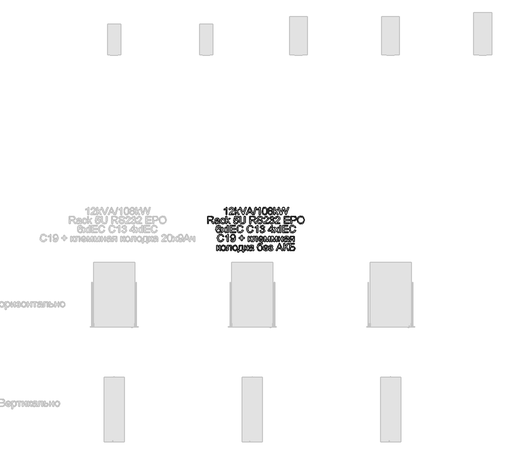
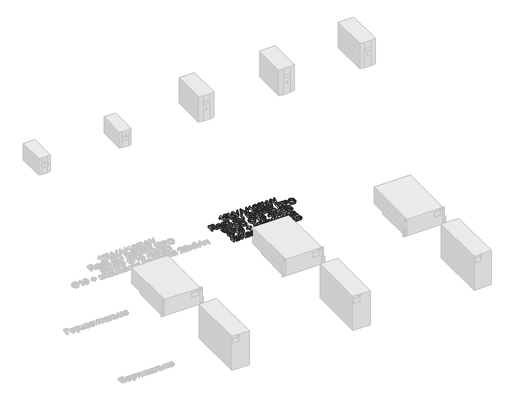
# One storey, part 54 of 74: 1 proxy.
"""IFC4 building model written with IfcOpenShell, lengths in millimetres."""

from ifc_helpers import new_model, si_unit, origin, origin_with_axes, place, context, project, spatial, polyline, outline, extrude, element, save

model = new_model("IFC4")

# Units and contexts
model_context = context("Model", 3, world=origin())
ifc_project = project(units=[si_unit("LENGTHUNIT", "METRE", prefix="MILLI")], contexts=[model_context])

# Site, building, storey
site = spatial("IfcSite", under=ifc_project)
building = spatial("IfcBuilding", under=site)
storey = spatial("IfcBuildingStorey", under=building, Name="Этаж 01", Elevation=0.0)

# Proxy
placement = place(None, origin())
element("IfcBuildingElementProxy", 1, Name="80 мм Arial", ObjectType="80 мм Arial", at=placement, inside=storey, context=model_context, shape_type="SweptSolid", body=[
    extrude(outline(polyline([(2576.7842514, -3326.633326), (2566.7386204, -3326.633326), (2566.7386204, -3264.0050951), (2557.2227394, -3270.783934), (2546.6473583, -3275.8558004), (2546.6473583, -3266.3595399), (2561.3724483, -3256.9613812), (2570.3095283, -3246.2682778), (2576.7842514, -3246.2682778), (2576.7842514, -3326.633326)])), origin_with_axes(), (0.0, 0.0, 1.0), 20.0),
    extrude(outline(polyline([(2652.126484, -3316.5876949), (2652.126484, -3326.633326), (2599.3869212, -3326.633326), (2600.4660417, -3319.7073343), (2606.5679777, -3309.0436615), (2619.1446369, -3297.3989701), (2636.4890467, -3280.6627918), (2640.8251491, -3269.2829755), (2636.7343013, -3260.0712103), (2626.0510082, -3256.3139089), (2614.9164465, -3259.9829186), (2610.6882561, -3270.1266515), (2600.6426251, -3268.8709476), (2603.0780039, -3259.1539579), (2608.3436215, -3252.0562879), (2616.1647927, -3247.7152804), (2626.2668323, -3246.2682778), (2636.4424483, -3247.8771484), (2644.2489042, -3252.7037602), (2649.2153111, -3259.9142473), (2650.8707801, -3268.6747439), (2649.0853262, -3278.200435), (2643.1501633, -3288.0498623), (2628.7586197, -3301.813554), (2617.2022199, -3311.4765878), (2612.6699137, -3316.5876949), (2652.126484, -3316.5876949)])), origin_with_axes(), (0.0, 0.0, 1.0), 20.0),
    extrude(outline(polyline([(2664.6835228, -3326.633326), (2664.6835228, -3246.2682778), (2674.7291538, -3246.2682778), (2674.7291538, -3289.452719), (2697.2533421, -3267.6152437), (2711.1445662, -3267.6152437), (2688.3456927, -3289.7274042), (2712.4002701, -3326.633326), (2700.667287, -3326.633326), (2681.1450158, -3296.712257), (2674.7291538, -3302.9319153), (2674.7291538, -3326.633326), (2664.6835228, -3326.633326)])), origin_with_axes(), (0.0, 0.0, 1.0), 20.0),
    extrude(outline(polyline([(2787.1735119, -3326.633326), (2819.2528219, -3246.2682778), (2827.8073045, -3246.2682778), (2859.8866145, -3326.633326), (2849.2719927, -3326.633326), (2840.0700377, -3301.5192484), (2806.9704683, -3301.5192484), (2797.7881337, -3326.633326), (2787.1735119, -3326.633326)]), holes=[polyline([(2810.6590985, -3291.4736174), (2836.4010279, -3291.4736174), (2829.1611103, -3271.7159017), (2823.5300632, -3256.3139089), (2818.5268681, -3269.9893089), (2810.6590985, -3291.4736174)])]), origin_with_axes(), (0.0, 0.0, 1.0), 20.0),
    extrude(outline(polyline([(2746.1865525, -3326.633326), (2714.2053444, -3246.2682778), (2724.9573089, -3246.2682778), (2746.3631359, -3304.1679988), (2750.6992383, -3317.2155469), (2754.9764797, -3304.1679988), (2776.4411678, -3246.2682778), (2787.1931323, -3246.2682778), (2756.5657299, -3326.633326), (2746.1865525, -3326.633326)])), origin_with_axes(), (0.0, 0.0, 1.0), 20.0),
    extrude(outline(polyline([(2861.8290314, -3326.633326), (2884.4317012, -3246.2682778), (2893.4963136, -3246.2682778), (2870.8936438, -3326.633326), (2861.8290314, -3326.633326)])), origin_with_axes(), (0.0, 0.0, 1.0), 20.0),
    extrude(outline(polyline([(2935.9155602, -3326.633326), (2925.8699292, -3326.633326), (2925.8699292, -3264.0050951), (2916.3540482, -3270.783934), (2905.7786671, -3275.8558004), (2905.7786671, -3266.3595399), (2920.5037571, -3256.9613812), (2929.4408371, -3246.2682778), (2935.9155602, -3246.2682778), (2935.9155602, -3326.633326)])), origin_with_axes(), (0.0, 0.0, 1.0), 20.0),
    extrude(outline(polyline([(2959.7739338, -3287.0982742), (2962.7268, -3263.9756645), (2971.4971067, -3250.643621), (2986.1437152, -3246.2682778), (2997.8766983, -3248.8581671), (3005.9799124, -3256.323719), (3010.688802, -3268.2136651), (3012.5134967, -3287.0982742), (3009.5900611, -3310.122782), (3000.8491849, -3323.4842561), (2986.1437152, -3327.8890298), (2975.7056768, -3325.9760435), (2967.7790461, -3320.2370843), (2961.7752119, -3306.6450709), (2959.7739338, -3287.0982742)]), holes=[polyline([(2969.8195649, -3287.0786538), (2970.9967872, -3302.8804118), (2974.5284544, -3312.0259582), (2986.1437152, -3317.8433988), (2997.7589761, -3312.0063378), (3001.2906433, -3302.8558863), (3002.4678656, -3287.0786538), (3001.329884, -3271.6325151), (2997.9159391, -3262.4158449), (2992.6674893, -3257.8393929), (2986.025993, -3256.3139089), (2974.6854174, -3261.6898911), (2971.036028, -3271.4804572), (2969.8195649, -3287.0786538)])]), origin_with_axes(), (0.0, 0.0, 1.0), 20.0),
    extrude(outline(polyline([(3035.9402221, -3282.3697643), (3026.7873181, -3276.1304857), (3023.8148316, -3266.418401), (3025.4335123, -3258.5653467), (3030.2895547, -3252.0759083), (3037.8384932, -3247.7201854), (3047.5358626, -3246.2682778), (3057.2920931, -3247.7545211), (3064.9391335, -3252.2132509), (3069.8834675, -3258.8056962), (3071.5315789, -3266.6930862), (3068.5983331, -3276.1599162), (3059.7004939, -3282.3697643), (3070.3837871, -3290.2473441), (3074.0429866, -3303.2458413), (3072.2281021, -3312.8500139), (3066.7834486, -3320.7864548), (3058.3761187, -3326.1133861), (3047.6732052, -3327.8890298), (3036.9702917, -3326.1060284), (3028.5629618, -3320.7570242), (3023.1183083, -3312.7445544), (3021.3034238, -3302.971156), (3025.1097762, -3289.6685431), (3035.9402221, -3282.3697643)]), holes=[polyline([(3033.8604626, -3266.7127066), (3037.4215603, -3274.6000966), (3047.7909275, -3277.6608748), (3057.9542807, -3274.6197169), (3061.4859479, -3267.1639752), (3057.8365585, -3259.4433584), (3047.6732052, -3256.3139089), (3037.4804214, -3259.3746871), (3033.8604626, -3266.7127066)]), polyline([(3031.3490548, -3302.6179893), (3033.0265967, -3310.1816431), (3038.9617596, -3315.8421208), (3047.7516867, -3317.8433988), (3059.7201143, -3313.6348288), (3063.9973556, -3302.9319153), (3059.5827717, -3292.0229879), (3047.4181404, -3287.7065058), (3035.5968656, -3291.9641267), (3031.3490548, -3302.6179893)])]), origin_with_axes(), (0.0, 0.0, 1.0), 20.0),
    extrude(outline(polyline([(3085.3443215, -3326.633326), (3085.3443215, -3246.2682778), (3095.3899525, -3246.2682778), (3095.3899525, -3289.452719), (3117.9141408, -3267.6152437), (3131.805365, -3267.6152437), (3109.0064915, -3289.7274042), (3133.0610688, -3326.633326), (3121.3280857, -3326.633326), (3101.8058145, -3296.712257), (3095.3899525, -3302.9319153), (3095.3899525, -3326.633326), (3085.3443215, -3326.633326)])), origin_with_axes(), (0.0, 0.0, 1.0), 20.0),
    extrude(outline(polyline([(3157.4884333, -3326.633326), (3135.5724766, -3246.2682778), (3145.9320336, -3246.2682778), (3158.6460353, -3299.0863222), (3162.5701099, -3315.3908522), (3166.7688698, -3300.969878), (3182.7006127, -3246.2682778), (3197.6317166, -3246.2682778), (3209.2077368, -3285.9210518), (3217.8210805, -3315.3908522), (3221.6274329, -3299.5572111), (3234.4591569, -3246.2682778), (3244.8187139, -3246.2682778), (3222.8831368, -3326.633326), (3212.1507927, -3326.633326), (3192.8835864, -3264.632947), (3190.1955952, -3255.9803625), (3187.1740578, -3266.3987806), (3169.6138239, -3326.633326), (3157.4884333, -3326.633326)])), origin_with_axes(), (0.0, 0.0, 1.0), 20.0),
    extrude(outline(polyline([(2366.453852, -3424.2131802), (2366.453852, -3343.8481321), (2401.0838105, -3343.8481321), (2417.1627062, -3346.0161833), (2425.9526334, -3353.6877492), (2429.2390459, -3365.8425703), (2423.7943923, -3380.3224057), (2406.9699224, -3387.7977678), (2412.679451, -3392.0946295), (2420.8219058, -3402.4345661), (2434.2226206, -3424.2131802), (2422.5484986, -3424.2131802), (2412.0908398, -3407.5554835), (2404.5369962, -3396.5288338), (2399.2296852, -3391.3196248), (2394.4521244, -3389.4066384), (2388.6248736, -3389.0534717), (2376.499483, -3389.0534717), (2376.499483, -3424.2131802), (2366.453852, -3424.2131802)]), holes=[polyline([(2376.499483, -3379.0078407), (2398.9844306, -3379.0078407), (2410.4525386, -3377.5853636), (2416.9665025, -3373.0334371), (2419.1934148, -3366.2153574), (2414.9456041, -3357.3665692), (2401.5154587, -3353.8937631), (2376.499483, -3353.8937631), (2376.499483, -3379.0078407)])]), origin_with_axes(), (0.0, 0.0, 1.0), 20.0),
    extrude(outline(polyline([(2483.2343126, -3416.678957), (2473.4927973, -3423.4872264), (2462.7310227, -3425.4688841), (2448.1432753, -3420.7011335), (2443.0517885, -3408.5168818), (2444.9745851, -3400.5706307), (2450.0268311, -3394.802241), (2457.0607349, -3391.5060183), (2465.7525602, -3389.9952496), (2483.1754514, -3386.5420639), (2483.2343126, -3384.3053414), (2480.46784, -3376.8888404), (2469.3627088, -3373.9850252), (2459.1993555, -3375.9176319), (2454.3531234, -3382.7749523), (2444.3074924, -3381.5192484), (2448.653405, -3371.7090619), (2457.4040914, -3365.9602926), (2470.6576534, -3363.9393941), (2482.8320949, -3365.7248481), (2489.7090357, -3370.2081033), (2492.7894343, -3377.026183), (2493.2799436, -3385.8161101), (2493.2799436, -3398.3142878), (2493.7900733, -3415.7666096), (2495.7913513, -3424.2131802), (2485.7457203, -3424.2131802), (2483.2343126, -3416.678957)]), holes=[polyline([(2483.2343126, -3396.5876949), (2467.0278844, -3399.6680935), (2458.3851101, -3401.2965845), (2454.4708456, -3403.9453348), (2453.0974195, -3407.8105483), (2456.0895264, -3413.2453917), (2464.8696434, -3415.4232531), (2475.0329966, -3413.0197574), (2481.5862012, -3407.2023168), (2483.1754514, -3399.432649), (2483.2343126, -3396.5876949)])]), origin_with_axes(), (0.0, 0.0, 1.0), 20.0),
    extrude(outline(polyline([(2544.7638025, -3402.8662143), (2554.8094335, -3404.1219182), (2552.0086253, -3413.0565456), (2546.7454602, -3419.8084065), (2530.8137173, -3425.4688841), (2520.1279716, -3423.4945841), (2511.7721452, -3417.571684), (2506.3789952, -3407.9601537), (2504.5812785, -3394.9199632), (2507.6518669, -3378.2328359), (2517.0107848, -3367.510302), (2530.6763747, -3363.9393941), (2545.9508351, -3368.8444874), (2553.5537297, -3382.7749523), (2543.5080987, -3384.0306562), (2538.84826, -3376.5062431), (2530.7548562, -3373.9850252), (2519.1101647, -3378.9489796), (2514.6269095, -3394.645278), (2519.0120629, -3410.4887293), (2530.4801709, -3415.4232531), (2539.9470009, -3412.3428545), (2544.7638025, -3402.8662143)])), origin_with_axes(), (0.0, 0.0, 1.0), 20.0),
    extrude(outline(polyline([(2563.5993607, -3424.2131802), (2563.5993607, -3343.8481321), (2573.6449917, -3343.8481321), (2573.6449917, -3387.0325733), (2596.16918, -3365.195098), (2610.0604041, -3365.195098), (2587.2615306, -3387.3072585), (2611.316108, -3424.2131802), (2599.5831249, -3424.2131802), (2580.0608537, -3394.2921113), (2573.6449917, -3400.5117696), (2573.6449917, -3424.2131802), (2563.5993607, -3424.2131802)])), origin_with_axes(), (0.0, 0.0, 1.0), 20.0),
    extrude(outline(polyline([(2648.9872243, -3402.8662143), (2659.0328553, -3401.6105105), (2664.0949116, -3411.9602573), (2674.5918112, -3415.4232531), (2687.1880907, -3410.6064515), (2691.6811561, -3397.8237784), (2687.4725861, -3385.8945916), (2674.7487742, -3381.5192484), (2665.9294165, -3383.2654616), (2660.2885592, -3387.7977678), (2650.2429282, -3386.5420639), (2659.0328553, -3345.103836), (2697.9596755, -3345.103836), (2697.9596755, -3355.149467), (2667.1556898, -3355.149467), (2662.8588281, -3377.2812478), (2677.5544875, -3371.4736174), (2686.9403835, -3373.2737866), (2694.7321241, -3378.6742943), (2699.9781214, -3386.9050408), (2701.7267871, -3397.1959265), (2700.1522522, -3407.2415575), (2695.4286474, -3415.8352809), (2686.3836554, -3423.0604833), (2674.5525704, -3425.4688841), (2664.6859753, -3423.9213272), (2656.8255634, -3419.2786564), (2651.4373184, -3412.080432), (2648.9872243, -3402.8662143)])), origin_with_axes(), (0.0, 0.0, 1.0), 20.0),
    extrude(outline(polyline([(2767.0233887, -3343.8481321), (2777.0690198, -3343.8481321), (2777.0690198, -3390.2110737), (2774.3417879, -3409.4292291), (2764.511981, -3421.0052492), (2745.8726266, -3425.4688841), (2727.5177675, -3421.5840502), (2717.3347939, -3410.3317663), (2714.2838259, -3390.2110737), (2714.2838259, -3343.8481321), (2724.3294569, -3343.8481321), (2724.3294569, -3389.857907), (2726.3111146, -3405.1716082), (2733.1193841, -3412.7548824), (2744.9308487, -3415.4232531), (2755.1481579, -3414.103783), (2761.9417121, -3410.1453727), (2765.7529696, -3402.4345661), (2767.0233887, -3389.857907), (2767.0233887, -3343.8481321)])), origin_with_axes(), (0.0, 0.0, 1.0), 20.0),
    extrude(outline(polyline([(2826.0414709, -3424.2131802), (2826.0414709, -3343.8481321), (2860.6714294, -3343.8481321), (2876.7503252, -3346.0161833), (2885.5402523, -3353.6877492), (2888.8266648, -3365.8425703), (2883.3820113, -3380.3224057), (2866.5575414, -3387.7977678), (2872.2670699, -3392.0946295), (2880.4095247, -3402.4345661), (2893.8102396, -3424.2131802), (2882.1361176, -3424.2131802), (2871.6784587, -3407.5554835), (2864.1246151, -3396.5288338), (2858.8173042, -3391.3196248), (2854.0397433, -3389.4066384), (2848.2124925, -3389.0534717), (2836.087102, -3389.0534717), (2836.087102, -3424.2131802), (2826.0414709, -3424.2131802)]), holes=[polyline([(2836.087102, -3379.0078407), (2858.5720495, -3379.0078407), (2870.0401576, -3377.5853636), (2876.5541214, -3373.0334371), (2878.7810338, -3366.2153574), (2874.533223, -3357.3665692), (2861.1030776, -3353.8937631), (2836.087102, -3353.8937631), (2836.087102, -3379.0078407)])]), origin_with_axes(), (0.0, 0.0, 1.0), 20.0),
    extrude(outline(polyline([(2902.6394074, -3396.5876949), (2912.6850385, -3396.5876949), (2915.9224, -3406.6431361), (2923.8294104, -3413.000137), (2935.8763194, -3415.4232531), (2946.373219, -3413.5887482), (2953.1520579, -3408.5463123), (2955.3789703, -3401.8067142), (2953.7112386, -3395.538005), (2946.8833487, -3390.9762682), (2932.2563606, -3387.1404853), (2916.5110112, -3382.1863411), (2907.9663387, -3374.710979), (2905.1508152, -3364.7242091), (2908.6334314, -3353.3542029), (2918.8065949, -3345.3294703), (2933.698458, -3342.5924282), (2949.5909602, -3345.4570027), (2960.1859617, -3353.8741428), (2964.1688974, -3366.4508019), (2954.1232664, -3366.4508019), (2948.4333582, -3356.1304857), (2934.0908655, -3352.6380593), (2919.709132, -3356.0912449), (2915.1964462, -3364.4299035), (2918.394567, -3371.3951359), (2934.7971989, -3377.0065626), (2952.5732569, -3382.0489985), (2962.2951518, -3390.1914533), (2965.4246013, -3401.5516493), (2961.8242628, -3413.5691278), (2951.4647058, -3422.3394346), (2936.2687269, -3425.4688841), (2918.3258957, -3422.0941799), (2906.9755099, -3411.9308267), (2902.6394074, -3396.5876949)])), origin_with_axes(), (0.0, 0.0, 1.0), 20.0),
    extrude(outline(polyline([(3028.2097951, -3414.1675492), (3028.2097951, -3424.2131802), (2975.4702323, -3424.2131802), (2976.5493528, -3417.2871885), (2982.6512888, -3406.6235158), (2995.227948, -3394.9788244), (3012.5723578, -3378.2426461), (3016.9084602, -3366.8628297), (3012.8176124, -3357.6510646), (3002.1343193, -3353.8937631), (2990.9997576, -3357.5627729), (2986.7715672, -3367.7065058), (2976.7259362, -3366.4508019), (2979.161315, -3356.7338121), (2984.4269326, -3349.6361422), (2992.2481038, -3345.2951346), (3002.3501434, -3343.8481321), (3012.5257594, -3345.4570027), (3020.3322153, -3350.2836145), (3025.2986223, -3357.4941016), (3026.9540912, -3366.2545982), (3025.1686373, -3375.7802893), (3019.2334744, -3385.6297166), (3004.8419308, -3399.3934083), (2993.285531, -3409.056442), (2988.7532249, -3414.1675492), (3028.2097951, -3414.1675492)])), origin_with_axes(), (0.0, 0.0, 1.0), 20.0),
    extrude(outline(polyline([(3038.2554261, -3402.8662143), (3048.3010572, -3401.6105105), (3053.8438125, -3412.1858915), (3064.2131797, -3415.4232531), (3076.4170518, -3410.9694284), (3080.949358, -3399.9427787), (3076.4562925, -3389.5537912), (3065.0372354, -3385.443323), (3057.9935215, -3386.5420639), (3059.1118827, -3376.4964329), (3060.7207533, -3376.6141552), (3072.1201901, -3373.7299603), (3077.1822463, -3364.8615517), (3073.5132366, -3357.0035923), (3064.0562167, -3353.8937631), (3054.4814747, -3357.0330228), (3049.556761, -3366.4508019), (3039.51113, -3365.195098), (3047.7320663, -3349.4399384), (3063.70305, -3343.8481321), (3075.8186304, -3346.6047945), (3084.2946316, -3354.1390178), (3087.2278773, -3364.2729405), (3084.4417844, -3373.5337566), (3076.2012277, -3380.1850631), (3087.1493958, -3387.0521936), (3090.994989, -3400.1193621), (3089.0721924, -3409.9099283), (3083.3038027, -3418.0916238), (3074.5972622, -3423.624569), (3063.860013, -3425.4688841), (3054.1479283, -3423.8943492), (3046.240918, -3419.1707444), (3040.7423084, -3411.945542), (3038.2554261, -3402.8662143)])), origin_with_axes(), (0.0, 0.0, 1.0), 20.0),
    extrude(outline(polyline([(3151.2687751, -3414.1675492), (3151.2687751, -3424.2131802), (3098.5292122, -3424.2131802), (3099.6083327, -3417.2871885), (3105.7102688, -3406.6235158), (3118.2869279, -3394.9788244), (3135.6313377, -3378.2426461), (3139.9674402, -3366.8628297), (3135.8765924, -3357.6510646), (3125.1932992, -3353.8937631), (3114.0587375, -3357.5627729), (3109.8305471, -3367.7065058), (3099.7849161, -3366.4508019), (3102.2202949, -3356.7338121), (3107.4859125, -3349.6361422), (3115.3070838, -3345.2951346), (3125.4091233, -3343.8481321), (3135.5847393, -3345.4570027), (3143.3911953, -3350.2836145), (3148.3576022, -3357.4941016), (3150.0130712, -3366.2545982), (3148.2276172, -3375.7802893), (3142.2924544, -3385.6297166), (3127.9009107, -3399.3934083), (3116.344511, -3409.056442), (3111.8122048, -3414.1675492), (3151.2687751, -3414.1675492)])), origin_with_axes(), (0.0, 0.0, 1.0), 20.0),
    extrude(outline(polyline([(3196.4741146, -3424.2131802), (3196.4741146, -3343.8481321), (3254.236493, -3343.8481321), (3254.236493, -3353.8937631), (3206.5197456, -3353.8937631), (3206.5197456, -3377.7521368), (3251.7250852, -3377.7521368), (3251.7250852, -3387.7977678), (3206.5197456, -3387.7977678), (3206.5197456, -3414.1675492), (3255.4921968, -3414.1675492), (3255.4921968, -3424.2131802), (3196.4741146, -3424.2131802)])), origin_with_axes(), (0.0, 0.0, 1.0), 20.0),
    extrude(outline(polyline([(3270.5606434, -3424.2131802), (3270.5606434, -3343.8481321), (3300.3443697, -3343.8481321), (3312.352038, -3344.6133267), (3322.1131736, -3348.3706281), (3328.4407439, -3356.1402958), (3330.8344295, -3367.0982742), (3329.2182012, -3376.5700093), (3324.3695165, -3384.4623044), (3315.3024516, -3389.7892357), (3301.0310827, -3391.5648794), (3280.6062744, -3391.5648794), (3280.6062744, -3424.2131802), (3270.5606434, -3424.2131802)]), holes=[polyline([(3280.6062744, -3381.5192484), (3301.6196939, -3381.5192484), (3316.4134552, -3377.8306183), (3320.7887984, -3367.4514409), (3318.2087194, -3359.1324027), (3311.4298805, -3354.5804762), (3301.3842495, -3353.8937631), (3280.6062744, -3353.8937631), (3280.6062744, -3381.5192484)])]), origin_with_axes(), (0.0, 0.0, 1.0), 20.0),
    extrude(outline(polyline([(3340.8800605, -3385.0901563), (3343.5582414, -3367.3190034), (3351.5927842, -3353.8741428), (3363.8604224, -3345.4128569), (3379.2378898, -3342.5924282), (3399.23105, -3347.889929), (3412.8083482, -3362.6640699), (3417.477997, -3384.1679988), (3412.5630935, -3405.9662333), (3398.6326286, -3420.5245501), (3379.1790287, -3425.4688841), (3358.9700444, -3420.0046102), (3345.4712278, -3405.0931267), (3340.8800605, -3385.0901563)]), holes=[polyline([(3350.9256915, -3385.1882582), (3352.9343272, -3397.7600122), (3358.9602343, -3407.3396594), (3368.017489, -3413.4023547), (3379.1201676, -3415.4232531), (3390.3847143, -3413.3827343), (3399.4566843, -3407.2611779), (3405.4384455, -3397.3872251), (3407.4323659, -3384.0895173), (3404.018421, -3367.510302), (3394.0414613, -3356.5327033), (3379.2967509, -3352.6380593), (3368.4908305, -3354.5142574), (3359.3035908, -3360.142852), (3353.0201663, -3370.1565999), (3350.9256915, -3385.1882582)])]), origin_with_axes(), (0.0, 0.0, 1.0), 20.0),
    extrude(outline(polyline([(2509.604094, -3462.7749523), (2499.558463, -3464.0306562), (2495.7521106, -3455.6527569), (2485.6868592, -3451.4736174), (2476.6222468, -3453.9065437), (2469.7649264, -3463.0398273), (2466.9101622, -3480.9434178), (2475.7687606, -3472.9284954), (2486.7463593, -3470.3091756), (2496.0267958, -3472.0995346), (2503.8160839, -3477.4706117), (2509.0988694, -3485.6768328), (2510.8597979, -3495.9726235), (2507.5439548, -3509.8344171), (2498.4204813, -3519.6446037), (2485.255211, -3523.0487384), (2473.8582268, -3520.7923955), (2464.7813517, -3514.0233668), (2458.8437363, -3502.0745596), (2456.8645311, -3484.2788812), (2459.0620129, -3464.2710057), (2465.6544583, -3450.5907006), (2474.6553044, -3443.7186649), (2486.3147111, -3441.4279864), (2495.1291637, -3442.8455583), (2502.187593, -3447.0982742), (2509.604094, -3462.7749523)]), holes=[polyline([(2466.9101622, -3495.8156606), (2469.2351764, -3504.517296), (2475.4155939, -3510.8350561), (2484.4703961, -3513.0031074), (2496.3112912, -3508.5100419), (2500.8141668, -3496.3061699), (2496.3701523, -3484.6222377), (2484.0583682, -3480.3548066), (2471.9035471, -3484.6222377), (2466.9101622, -3495.8156606)])]), origin_with_axes(), (0.0, 0.0, 1.0), 20.0),
    extrude(outline(polyline([(2515.8826134, -3521.7930345), (2537.3473015, -3492.1270304), (2517.1383172, -3462.7749523), (2529.2244671, -3462.7749523), (2538.9757925, -3476.9016209), (2543.527719, -3483.5725478), (2547.471414, -3478.118084), (2558.5765452, -3462.7749523), (2570.662695, -3462.7749523), (2549.4334513, -3492.1270304), (2569.8778801, -3521.7930345), (2557.7917303, -3521.7930345), (2545.4897563, -3503.9581154), (2543.2334134, -3500.7011335), (2527.9687632, -3521.7930345), (2515.8826134, -3521.7930345)])), origin_with_axes(), (0.0, 0.0, 1.0), 20.0),
    extrude(outline(polyline([(2581.179215, -3521.7930345), (2581.179215, -3441.4279864), (2591.224846, -3441.4279864), (2591.224846, -3521.7930345), (2581.179215, -3521.7930345)])), origin_with_axes(), (0.0, 0.0, 1.0), 20.0),
    extrude(outline(polyline([(2611.316108, -3521.7930345), (2611.316108, -3441.4279864), (2669.0784863, -3441.4279864), (2669.0784863, -3451.4736174), (2621.361739, -3451.4736174), (2621.361739, -3475.3319911), (2666.5670786, -3475.3319911), (2666.5670786, -3485.3776221), (2621.361739, -3485.3776221), (2621.361739, -3511.7474035), (2670.3341902, -3511.7474035), (2670.3341902, -3521.7930345), (2611.316108, -3521.7930345)])), origin_with_axes(), (0.0, 0.0, 1.0), 20.0),
    extrude(outline(polyline([(2741.9093112, -3493.2257713), (2751.9549422, -3495.8156606), (2747.3196291, -3507.5216656), (2740.0453758, -3516.0736958), (2730.4902541, -3521.3049777), (2719.0123358, -3523.0487384), (2698.1068283, -3517.770858), (2685.8440951, -3502.4865874), (2681.6355251, -3481.0022789), (2686.3934656, -3459.1648037), (2699.9217128, -3445.0087045), (2719.2281599, -3440.1722825), (2730.2425469, -3441.7370073), (2739.3488525, -3446.4311815), (2746.2625815, -3453.9654048), (2750.6992383, -3464.0502765), (2740.6536073, -3466.4439621), (2732.4130506, -3454.0929372), (2718.8357525, -3450.2179135), (2703.1198336, -3454.5147752), (2694.2416148, -3466.0515546), (2691.6811561, -3480.9826585), (2694.7125038, -3498.2878276), (2704.1499032, -3509.3439078), (2718.0116968, -3513.0031074), (2733.3842591, -3508.0195326), (2741.9093112, -3493.2257713)])), origin_with_axes(), (0.0, 0.0, 1.0), 20.0),
    extrude(outline(polyline([(2853.6669562, -3493.2257713), (2863.7125873, -3495.8156606), (2859.0772741, -3507.5216656), (2851.8030208, -3516.0736958), (2842.2478991, -3521.3049777), (2830.7699809, -3523.0487384), (2809.8644733, -3517.770858), (2797.6017402, -3502.4865874), (2793.3931702, -3481.0022789), (2798.1511106, -3459.1648037), (2811.6793579, -3445.0087045), (2830.985805, -3440.1722825), (2842.0001919, -3441.7370073), (2851.1064976, -3446.4311815), (2858.0202265, -3453.9654048), (2862.4568834, -3464.0502765), (2852.4112524, -3466.4439621), (2844.1706957, -3454.0929372), (2830.5933975, -3450.2179135), (2814.8774787, -3454.5147752), (2805.9992599, -3466.0515546), (2803.4388012, -3480.9826585), (2806.4701488, -3498.2878276), (2815.9075483, -3509.3439078), (2829.7693418, -3513.0031074), (2845.1419041, -3508.0195326), (2853.6669562, -3493.2257713)])), origin_with_axes(), (0.0, 0.0, 1.0), 20.0),
    extrude(outline(polyline([(2911.4293346, -3521.7930345), (2901.3837036, -3521.7930345), (2901.3837036, -3459.1648037), (2891.8678226, -3465.9436426), (2881.2924415, -3471.015509), (2881.2924415, -3461.5192484), (2896.0175315, -3452.1210897), (2904.9546115, -3441.4279864), (2911.4293346, -3441.4279864), (2911.4293346, -3521.7930345)])), origin_with_axes(), (0.0, 0.0, 1.0), 20.0),
    extrude(outline(polyline([(2935.2877082, -3500.4460686), (2945.3333393, -3499.1903647), (2950.8760946, -3509.7657458), (2961.2454618, -3513.0031074), (2973.4493339, -3508.5492827), (2977.98164, -3497.522633), (2973.4885746, -3487.1336455), (2962.0695175, -3483.0231773), (2955.0258036, -3484.1219182), (2956.1441648, -3474.0762872), (2957.7530354, -3474.1940094), (2969.1524722, -3471.3098146), (2974.2145284, -3462.441406), (2970.5455187, -3454.5834465), (2961.0884988, -3451.4736174), (2951.5137568, -3454.6128771), (2946.5890431, -3464.0306562), (2936.5434121, -3462.7749523), (2944.7643484, -3447.0197927), (2960.7353321, -3441.4279864), (2972.8509125, -3444.1846488), (2981.3269137, -3451.7188721), (2984.2601594, -3461.8527948), (2981.4740665, -3471.1136109), (2973.2335098, -3477.7649173), (2984.1816779, -3484.6320479), (2988.0272711, -3497.6992164), (2986.1044745, -3507.4897825), (2980.3360848, -3515.6714781), (2971.6295443, -3521.2044233), (2960.8922951, -3523.0487384), (2951.1802104, -3521.4742035), (2943.2732001, -3516.7505986), (2937.7745905, -3509.5253962), (2935.2877082, -3500.4460686)])), origin_with_axes(), (0.0, 0.0, 1.0), 20.0),
    extrude(outline(polyline([(3060.8580959, -3521.7930345), (3060.8580959, -3502.9574764), (3024.4426835, -3502.9574764), (3024.4426835, -3492.9118453), (3063.3695037, -3442.6836903), (3070.9037269, -3442.6836903), (3070.9037269, -3492.9118453), (3080.949358, -3492.9118453), (3080.949358, -3502.9574764), (3070.9037269, -3502.9574764), (3070.9037269, -3521.7930345), (3060.8580959, -3521.7930345)]), holes=[polyline([(3060.8580959, -3492.9118453), (3060.8580959, -3461.8724151), (3036.8035185, -3492.9118453), (3060.8580959, -3492.9118453)])]), origin_with_axes(), (0.0, 0.0, 1.0), 20.0),
    extrude(outline(polyline([(3085.9721735, -3521.7930345), (3107.4368616, -3492.1270304), (3087.2278773, -3462.7749523), (3099.3140272, -3462.7749523), (3109.0653526, -3476.9016209), (3113.6172791, -3483.5725478), (3117.5609741, -3478.118084), (3128.6661053, -3462.7749523), (3140.7522551, -3462.7749523), (3119.5230114, -3492.1270304), (3139.9674402, -3521.7930345), (3127.8812904, -3521.7930345), (3115.5793164, -3503.9581154), (3113.3229735, -3500.7011335), (3098.0583233, -3521.7930345), (3085.9721735, -3521.7930345)])), origin_with_axes(), (0.0, 0.0, 1.0), 20.0),
    extrude(outline(polyline([(3151.2687751, -3521.7930345), (3151.2687751, -3441.4279864), (3161.3144061, -3441.4279864), (3161.3144061, -3521.7930345), (3151.2687751, -3521.7930345)])), origin_with_axes(), (0.0, 0.0, 1.0), 20.0),
    extrude(outline(polyline([(3181.4056681, -3521.7930345), (3181.4056681, -3441.4279864), (3239.1680464, -3441.4279864), (3239.1680464, -3451.4736174), (3191.4512991, -3451.4736174), (3191.4512991, -3475.3319911), (3236.6566387, -3475.3319911), (3236.6566387, -3485.3776221), (3191.4512991, -3485.3776221), (3191.4512991, -3511.7474035), (3240.4237503, -3511.7474035), (3240.4237503, -3521.7930345), (3181.4056681, -3521.7930345)])), origin_with_axes(), (0.0, 0.0, 1.0), 20.0),
    extrude(outline(polyline([(3311.9988713, -3493.2257713), (3322.0445023, -3495.8156606), (3317.4091892, -3507.5216656), (3310.1349359, -3516.0736958), (3300.5798142, -3521.3049777), (3289.1018959, -3523.0487384), (3268.1963884, -3517.770858), (3255.9336552, -3502.4865874), (3251.7250852, -3481.0022789), (3256.4830257, -3459.1648037), (3270.0112729, -3445.0087045), (3289.31772, -3440.1722825), (3300.332107, -3441.7370073), (3309.4384126, -3446.4311815), (3316.3521416, -3453.9654048), (3320.7887984, -3464.0502765), (3310.7431674, -3466.4439621), (3302.5026107, -3454.0929372), (3288.9253126, -3450.2179135), (3273.2093937, -3454.5147752), (3264.3311749, -3466.0515546), (3261.7707162, -3480.9826585), (3264.8020639, -3498.2878276), (3274.2394633, -3509.3439078), (3288.1012569, -3513.0031074), (3303.4738192, -3508.0195326), (3311.9988713, -3493.2257713)])), origin_with_axes(), (0.0, 0.0, 1.0), 20.0),
    extrude(outline(polyline([(2533.4624676, -3590.8056256), (2543.5080987, -3593.3955148), (2538.8727855, -3605.1015199), (2531.5985322, -3613.65355), (2522.0434105, -3618.884832), (2510.5654923, -3620.6285927), (2489.6599847, -3615.3507123), (2477.3972516, -3600.0664417), (2473.1886815, -3578.5821332), (2477.946622, -3556.7446579), (2491.4748693, -3542.5885588), (2510.7813164, -3537.7521368), (2521.7957033, -3539.3168615), (2530.902009, -3544.0110358), (2537.8157379, -3551.5452591), (2542.2523948, -3561.6301308), (2532.2067638, -3564.0238163), (2523.9662071, -3551.6727915), (2510.3889089, -3547.7977678), (2494.6729901, -3552.0946295), (2485.7947712, -3563.6314089), (2483.2343126, -3578.5625128), (2486.2656602, -3595.8676818), (2495.7030597, -3606.9237621), (2509.5648532, -3610.5829617), (2524.9374155, -3605.5993869), (2533.4624676, -3590.8056256)])), origin_with_axes(), (0.0, 0.0, 1.0), 20.0),
    extrude(outline(polyline([(2591.224846, -3619.3728888), (2581.179215, -3619.3728888), (2581.179215, -3556.7446579), (2571.663334, -3563.5234968), (2561.0879529, -3568.5953633), (2561.0879529, -3559.0991027), (2575.8130429, -3549.700944), (2584.7501229, -3539.0078407), (2591.224846, -3539.0078407), (2591.224846, -3619.3728888)])), origin_with_axes(), (0.0, 0.0, 1.0), 20.0),
    extrude(outline(polyline([(2616.3389235, -3599.2816268), (2626.3845545, -3598.0259229), (2630.8972403, -3607.6104751), (2639.451723, -3610.5829617), (2647.5843676, -3608.6699753), (2653.0976925, -3603.5588681), (2656.384105, -3594.8278021), (2657.8360126, -3583.1733005), (2657.7771514, -3581.2112632), (2649.7426087, -3588.8239679), (2638.7257692, -3591.7474035), (2629.5655075, -3589.9619495), (2621.94054, -3584.6055877), (2616.7975497, -3576.3306954), (2615.0832196, -3565.7896499), (2616.8809363, -3554.9003429), (2622.2740864, -3546.3654806), (2630.3748479, -3540.8472506), (2640.295399, -3539.0078407), (2654.6084612, -3543.2066005), (2664.4578885, -3555.1750281), (2667.8227825, -3577.6599756), (2664.4676987, -3602.0579095), (2654.490739, -3615.8804624), (2638.980834, -3620.6285927), (2630.3920157, -3619.2281885), (2623.5396004, -3615.0269762), (2616.3389235, -3599.2816268)]), holes=[polyline([(2657.7771514, -3565.5542054), (2653.441049, -3553.5072964), (2641.92389, -3549.0534717), (2629.8377402, -3553.8506529), (2625.1288506, -3566.2801592), (2629.5826753, -3577.414721), (2641.6492048, -3581.7017725), (2653.2350351, -3577.414721), (2657.7771514, -3565.5542054)])]), origin_with_axes(), (0.0, 0.0, 1.0), 20.0),
    extrude(outline(polyline([(2730.6079763, -3606.81585), (2730.6079763, -3585.4688841), (2709.2610104, -3585.4688841), (2709.2610104, -3575.4232531), (2730.6079763, -3575.4232531), (2730.6079763, -3554.0762872), (2740.6536073, -3554.0762872), (2740.6536073, -3575.4232531), (2762.0005732, -3575.4232531), (2762.0005732, -3585.4688841), (2740.6536073, -3585.4688841), (2740.6536073, -3606.81585), (2730.6079763, -3606.81585)])), origin_with_axes(), (0.0, 0.0, 1.0), 20.0),
    extrude(outline(polyline([(2861.2011795, -3560.3548066), (2906.4065191, -3560.3548066), (2906.4065191, -3619.3140277), (2896.3608881, -3619.3140277), (2896.3608881, -3570.4004376), (2871.2468105, -3570.4004376), (2871.2468105, -3598.555673), (2870.5699076, -3611.5443599), (2866.8518469, -3617.0282542), (2858.0619198, -3619.3728888), (2849.8998446, -3618.8627591), (2849.8998446, -3609.3272578), (2854.39291, -3609.3272578), (2858.9350264, -3608.709216), (2860.7499109, -3606.7471787), (2861.2011795, -3597.9866821), (2861.2011795, -3560.3548066)])), origin_with_axes(), (0.0, 0.0, 1.0), 20.0),
    extrude(outline(polyline([(2807.2059128, -3560.3548066), (2817.2515438, -3560.3548066), (2817.2515438, -3585.4688841), (2823.9813318, -3583.6638098), (2829.4946566, -3573.1472898), (2834.0760137, -3564.0728673), (2838.1178106, -3561.1200011), (2845.4656403, -3560.3548066), (2847.3884369, -3560.3548066), (2847.3884369, -3570.4592987), (2844.6808254, -3570.4004376), (2839.7757321, -3571.4599377), (2836.3225464, -3578.0720035), (2832.2709394, -3585.2236295), (2826.5908414, -3588.725866), (2832.9282219, -3592.6352254), (2839.1478802, -3600.870877), (2849.8998446, -3619.3728888), (2838.4807875, -3619.3728888), (2827.9446471, -3601.2632844), (2822.6471464, -3593.6015288), (2817.2515438, -3591.7474035), (2817.2515438, -3619.3728888), (2807.2059128, -3619.3728888), (2807.2059128, -3560.3548066)])), origin_with_axes(), (0.0, 0.0, 1.0), 20.0),
    extrude(outline(polyline([(2962.7954713, -3601.7930345), (2972.6448986, -3603.0487384), (2963.4331334, -3616.017805), (2946.2751172, -3620.6285927), (2934.488178, -3618.6395773), (2925.4186606, -3612.6725314), (2919.6355556, -3603.1149571), (2917.707854, -3590.354357), (2919.655176, -3577.1645612), (2925.4971421, -3567.3004186), (2934.4440322, -3561.1494317), (2945.7061263, -3559.0991027), (2956.6175063, -3561.1445266), (2965.3363096, -3567.2807983), (2971.0531958, -3577.1253205), (2972.9588245, -3590.2954959), (2972.8999634, -3593.0031074), (2927.753485, -3593.0031074), (2933.5316848, -3606.0506555), (2946.4713209, -3610.5829617), (2956.3207482, -3608.4835817), (2962.7954713, -3601.7930345)]), holes=[polyline([(2927.753485, -3582.9574764), (2962.9131935, -3582.9574764), (2958.891017, -3573.8536233), (2945.6668856, -3569.1447337), (2933.2962404, -3572.9020352), (2927.753485, -3582.9574764)])]), origin_with_axes(), (0.0, 0.0, 1.0), 20.0),
    extrude(outline(polyline([(2983.0044556, -3560.3548066), (3000.2900042, -3560.3548066), (3013.6122376, -3607.6006649), (3027.9743506, -3560.3548066), (3044.5339455, -3560.3548066), (3044.5339455, -3619.3728888), (3034.4883145, -3619.3728888), (3034.4883145, -3571.8523452), (3020.0477199, -3619.3728888), (3006.8628292, -3619.3728888), (2993.0500866, -3569.5763819), (2993.0500866, -3619.3728888), (2983.0044556, -3619.3728888), (2983.0044556, -3560.3548066)])), origin_with_axes(), (0.0, 0.0, 1.0), 20.0),
    extrude(outline(polyline([(3059.602392, -3560.3548066), (3076.8879407, -3560.3548066), (3090.210174, -3607.6006649), (3104.5722871, -3560.3548066), (3121.131882, -3560.3548066), (3121.131882, -3619.3728888), (3111.086251, -3619.3728888), (3111.086251, -3571.8523452), (3096.6456564, -3619.3728888), (3083.4607657, -3619.3728888), (3069.6480231, -3569.5763819), (3069.6480231, -3619.3728888), (3059.602392, -3619.3728888), (3059.602392, -3560.3548066)])), origin_with_axes(), (0.0, 0.0, 1.0), 20.0),
    extrude(outline(polyline([(3136.2003285, -3560.3548066), (3146.2459596, -3560.3548066), (3146.2459596, -3582.9574764), (3172.615741, -3582.9574764), (3172.615741, -3560.3548066), (3182.661372, -3560.3548066), (3182.661372, -3619.3728888), (3172.615741, -3619.3728888), (3172.615741, -3593.0031074), (3146.2459596, -3593.0031074), (3146.2459596, -3619.3728888), (3136.2003285, -3619.3728888), (3136.2003285, -3560.3548066)])), origin_with_axes(), (0.0, 0.0, 1.0), 20.0),
    extrude(outline(polyline([(3235.4009348, -3611.8386655), (3225.6594196, -3618.646935), (3214.8976449, -3620.6285927), (3200.3098976, -3615.860842), (3195.2184107, -3603.6765903), (3197.1412073, -3595.7303392), (3202.1934534, -3589.9619495), (3209.2273571, -3586.6657269), (3217.9191824, -3585.1549581), (3235.3420737, -3581.7017725), (3235.4009348, -3579.46505), (3232.6344622, -3572.0485489), (3221.529331, -3569.1447337), (3211.3659778, -3571.0773405), (3206.5197456, -3577.9346609), (3196.4741146, -3576.678957), (3200.8200273, -3566.8687704), (3209.5707137, -3561.1200011), (3222.8242757, -3559.0991027), (3234.9987172, -3560.8845566), (3241.8756579, -3565.3678119), (3244.9560565, -3572.1858915), (3245.4465658, -3580.9758187), (3245.4465658, -3593.4739963), (3245.9566955, -3610.9263182), (3247.9579736, -3619.3728888), (3237.9123426, -3619.3728888), (3235.4009348, -3611.8386655)]), holes=[polyline([(3235.4009348, -3591.7474035), (3219.1945066, -3594.8278021), (3210.5517323, -3596.456293), (3206.6374679, -3599.1050434), (3205.2640418, -3602.9702569), (3208.2561487, -3608.4051002), (3217.0362656, -3610.5829617), (3227.1996189, -3608.1794659), (3233.7528235, -3602.3620253), (3235.3420737, -3594.5923576), (3235.4009348, -3591.7474035)])]), origin_with_axes(), (0.0, 0.0, 1.0), 20.0),
    extrude(outline(polyline([(3304.464648, -3560.3548066), (3304.464648, -3619.3728888), (3294.419017, -3619.3728888), (3294.419017, -3596.770219), (3288.9449329, -3596.770219), (3281.4891912, -3598.0455433), (3274.484718, -3606.6196463), (3266.4796058, -3619.3728888), (3254.8643449, -3619.3728888), (3264.9492167, -3603.2449421), (3273.5036993, -3594.8866632), (3261.809957, -3588.7847272), (3258.0036046, -3577.4049108), (3263.2030035, -3565.0833165), (3278.2518296, -3560.3548066), (3304.464648, -3560.3548066)]), holes=[polyline([(3294.419017, -3570.4004376), (3281.1752652, -3570.4004376), (3270.4527313, -3572.7254518), (3268.0492356, -3578.1701053), (3271.5907129, -3584.6546386), (3284.1379415, -3586.724588), (3294.419017, -3586.724588), (3294.419017, -3570.4004376)])]), origin_with_axes(), (0.0, 0.0, 1.0), 20.0),
    extrude(outline(polyline([(2465.0266063, -3657.9346609), (2475.0722374, -3657.9346609), (2475.0722374, -3683.0487384), (2481.8020253, -3681.2436641), (2487.3153502, -3670.7271441), (2491.8967073, -3661.6527216), (2495.9385041, -3658.6998554), (2503.2863338, -3657.9346609), (2505.2091304, -3657.9346609), (2505.2091304, -3668.039153), (2502.5015189, -3667.9802919), (2497.5964257, -3669.039792), (2494.14324, -3675.6518577), (2490.091633, -3682.8034837), (2484.4115349, -3686.3057203), (2490.7489155, -3690.2150797), (2496.9685737, -3698.4507313), (2507.7205382, -3716.9527431), (2496.301481, -3716.9527431), (2485.7653407, -3698.8431387), (2480.46784, -3691.181383), (2475.0722374, -3689.3272578), (2475.0722374, -3716.9527431), (2465.0266063, -3716.9527431), (2465.0266063, -3657.9346609)])), origin_with_axes(), (0.0, 0.0, 1.0), 20.0),
    extrude(outline(polyline([(2511.4876498, -3687.443702), (2513.6606061, -3673.2140264), (2520.1794751, -3663.2125412), (2528.2336382, -3658.312353), (2537.8770516, -3656.678957), (2548.4303597, -3658.6679723), (2556.8597625, -3664.6350183), (2562.3853501, -3674.1092059), (2564.2272126, -3686.6196463), (2560.9702307, -3704.4938062), (2551.4837803, -3714.6081085), (2537.8770516, -3718.2084469), (2527.196211, -3716.2267893), (2518.7766184, -3710.2818162), (2513.3098919, -3700.6089723), (2511.4876498, -3687.443702)]), holes=[polyline([(2521.5332808, -3687.4240816), (2526.1833092, -3702.9928476), (2537.8770516, -3708.1628159), (2549.5315532, -3702.9634171), (2554.1815816, -3687.1101556), (2549.5021226, -3671.8945563), (2537.8770516, -3666.724588), (2526.1833092, -3671.8749359), (2521.5332808, -3687.4240816)])]), origin_with_axes(), (0.0, 0.0, 1.0), 20.0),
    extrude(outline(polyline([(2580.551363, -3657.9346609), (2625.7567026, -3657.9346609), (2625.7567026, -3716.8938819), (2615.7110716, -3716.8938819), (2615.7110716, -3667.9802919), (2590.596994, -3667.9802919), (2590.596994, -3696.1355272), (2589.9200912, -3709.1242142), (2586.2020305, -3714.6081085), (2577.4121033, -3716.9527431), (2569.2500281, -3716.4426134), (2569.2500281, -3706.9071121), (2573.7430936, -3706.9071121), (2578.2852099, -3706.2890703), (2580.1000944, -3704.327033), (2580.551363, -3695.5665364), (2580.551363, -3657.9346609)])), origin_with_axes(), (0.0, 0.0, 1.0), 20.0),
    extrude(outline(polyline([(2638.3137414, -3687.443702), (2640.4866977, -3673.2140264), (2647.0055666, -3663.2125412), (2655.0597298, -3658.312353), (2664.7031431, -3656.678957), (2675.2564513, -3658.6679723), (2683.6858541, -3664.6350183), (2689.2114417, -3674.1092059), (2691.0533042, -3686.6196463), (2687.7963223, -3704.4938062), (2678.3098719, -3714.6081085), (2664.7031431, -3718.2084469), (2654.0223026, -3716.2267893), (2645.60271, -3710.2818162), (2640.1359835, -3700.6089723), (2638.3137414, -3687.443702)]), holes=[polyline([(2648.3593724, -3687.4240816), (2653.0094008, -3702.9928476), (2664.7031431, -3708.1628159), (2676.3576448, -3702.9634171), (2681.0076732, -3687.1101556), (2676.3282142, -3671.8945563), (2664.7031431, -3666.724588), (2653.0094008, -3671.8749359), (2648.3593724, -3687.4240816)])]), origin_with_axes(), (0.0, 0.0, 1.0), 20.0),
    extrude(outline(polyline([(2711.1445662, -3657.9346609), (2748.8156825, -3657.9346609), (2748.8156825, -3706.9071121), (2756.3499058, -3706.9071121), (2756.3499058, -3733.2768935), (2746.3042748, -3733.2768935), (2746.3042748, -3716.9527431), (2704.8660468, -3716.9527431), (2704.8660468, -3733.2768935), (2694.8204158, -3733.2768935), (2694.8204158, -3706.9071121), (2701.0989352, -3706.9071121), (2708.8587928, -3687.7478177), (2711.1445662, -3657.9346609)]), holes=[polyline([(2719.9344934, -3667.9802919), (2717.5800486, -3690.8674571), (2712.4002701, -3706.9071121), (2738.7700515, -3706.9071121), (2738.7700515, -3667.9802919), (2719.9344934, -3667.9802919)])]), origin_with_axes(), (0.0, 0.0, 1.0), 20.0),
    extrude(outline(polyline([(2767.6512407, -3657.9346609), (2777.6968717, -3657.9346609), (2777.6968717, -3683.0487384), (2784.4266597, -3681.2436641), (2789.9399845, -3670.7271441), (2794.5213416, -3661.6527216), (2798.5631385, -3658.6998554), (2805.9109682, -3657.9346609), (2807.8337647, -3657.9346609), (2807.8337647, -3668.039153), (2805.1261532, -3667.9802919), (2800.22106, -3669.039792), (2796.7678743, -3675.6518577), (2792.7162673, -3682.8034837), (2787.0361693, -3686.3057203), (2793.3735498, -3690.2150797), (2799.593208, -3698.4507313), (2810.3451725, -3716.9527431), (2798.9261154, -3716.9527431), (2788.389975, -3698.8431387), (2783.0924743, -3691.181383), (2777.6968717, -3689.3272578), (2777.6968717, -3716.9527431), (2767.6512407, -3716.9527431), (2767.6512407, -3657.9346609)])), origin_with_axes(), (0.0, 0.0, 1.0), 20.0),
    extrude(outline(polyline([(2854.2948082, -3709.4185198), (2844.5532929, -3716.2267893), (2833.7915183, -3718.2084469), (2819.2037709, -3713.4406963), (2814.1122841, -3701.2564446), (2816.0350807, -3693.3101935), (2821.0873267, -3687.5418038), (2828.1212305, -3684.2455811), (2836.8130558, -3682.7348124), (2854.2359471, -3679.2816268), (2854.2948082, -3677.0449042), (2851.5283356, -3669.6284032), (2840.4232044, -3666.724588), (2830.2598512, -3668.6571947), (2825.413619, -3675.5145151), (2815.367988, -3674.2588113), (2819.7139006, -3664.4486247), (2828.464587, -3658.6998554), (2841.718149, -3656.678957), (2853.8925905, -3658.4644109), (2860.7695313, -3662.9476662), (2863.8499299, -3669.7657458), (2864.3404392, -3678.555673), (2864.3404392, -3691.0538506), (2864.8505689, -3708.5061725), (2866.8518469, -3716.9527431), (2856.8062159, -3716.9527431), (2854.2948082, -3709.4185198)]), holes=[polyline([(2854.2948082, -3689.3272578), (2838.08838, -3692.4076563), (2829.4456057, -3694.0361473), (2825.5313412, -3696.6848977), (2824.1579151, -3700.5501112), (2827.150022, -3705.9849545), (2835.930139, -3708.1628159), (2846.0934922, -3705.7593202), (2852.6466968, -3699.9418796), (2854.2359471, -3692.1722119), (2854.2948082, -3689.3272578)])]), origin_with_axes(), (0.0, 0.0, 1.0), 20.0),
    extrude(outline(polyline([(2950.9840067, -3635.3319911), (2959.7739338, -3635.3319911), (2957.1840446, -3643.1703301), (2952.0631272, -3646.005474), (2939.7611533, -3646.633326), (2923.1917482, -3648.94853), (2916.8347474, -3656.365031), (2914.6863165, -3669.4910606), (2923.387952, -3659.8770778), (2934.6009952, -3656.678957), (2945.0537489, -3658.7121181), (2953.5346552, -3664.8116016), (2959.1558921, -3674.378986), (2961.0296377, -3686.81585), (2957.311577, -3704.1013987), (2948.4922193, -3714.529627), (2934.6009952, -3718.2084469), (2918.7379235, -3713.4701268), (2910.0559085, -3701.3447363), (2907.034371, -3675.612617), (2908.9399997, -3656.338053), (2914.6568859, -3644.582997), (2924.3272773, -3638.5865205), (2938.0934216, -3636.5876949), (2949.2770342, -3636.3620607), (2950.9840067, -3635.3319911)]), holes=[polyline([(2950.9840067, -3686.5019241), (2946.6282839, -3672.2673434), (2941.3798341, -3668.1102768), (2934.3459303, -3666.724588), (2927.0128159, -3668.1887583), (2921.5730675, -3672.5812694), (2917.080002, -3688.2285169), (2922.0439564, -3703.0320884), (2934.2870692, -3708.1628159), (2941.0217623, -3706.6790252), (2946.3535987, -3702.2276531), (2950.9840067, -3686.5019241)])]), origin_with_axes(), (0.0, 0.0, 1.0), 20.0),
    extrude(outline(polyline([(3014.9071822, -3699.3728888), (3024.7566095, -3700.6285927), (3015.5448443, -3713.5976593), (2998.386828, -3718.2084469), (2986.5998889, -3716.2194316), (2977.5303715, -3710.2523857), (2971.7472665, -3700.6948114), (2969.8195649, -3687.9342113), (2971.7668869, -3674.7444155), (2977.608853, -3664.8802729), (2986.5557431, -3658.729286), (2997.8178372, -3656.678957), (3008.7292172, -3658.7243809), (3017.4480205, -3664.8606525), (3023.1649067, -3674.7051747), (3025.0705354, -3687.8753502), (3025.0116743, -3690.5829617), (2979.8651959, -3690.5829617), (2985.6433957, -3703.6305097), (2998.5830318, -3708.1628159), (3008.4324591, -3706.063436), (3014.9071822, -3699.3728888)]), holes=[polyline([(2979.8651959, -3680.5373306), (3015.0249044, -3680.5373306), (3011.0027279, -3671.4334775), (2997.7785965, -3666.724588), (2985.4079513, -3670.4818894), (2979.8651959, -3680.5373306)])]), origin_with_axes(), (0.0, 0.0, 1.0), 20.0),
    extrude(outline(polyline([(3048.9289091, -3690.5829617), (3048.9289091, -3680.5373306), (3056.8555398, -3680.1449232), (3060.8580959, -3678.0553534), (3062.7416517, -3673.6898204), (3060.2204338, -3668.617954), (3053.7162801, -3666.724588), (3046.9963023, -3668.6081438), (3042.6503897, -3674.2588113), (3031.3490548, -3673.0031074), (3038.9028985, -3660.7599946), (3052.6960207, -3656.678957), (3067.4505413, -3661.6527216), (3072.7872828, -3673.5328574), (3070.8890117, -3679.7721361), (3065.1941984, -3684.5987479), (3071.8356947, -3690.8576469), (3074.0429866, -3699.8633981), (3072.6425825, -3707.2578262), (3068.4413701, -3713.1169601), (3052.7745022, -3718.2084469), (3037.3234584, -3713.4995574), (3030.0933509, -3699.3728888), (3041.3946858, -3698.1171849), (3045.926992, -3705.5336859), (3053.7359005, -3708.1628159), (3061.07392, -3705.641598), (3063.9973556, -3699.1963054), (3062.1824711, -3693.9184251), (3058.3172576, -3691.0930914), (3050.8909464, -3690.5241005), (3048.9289091, -3690.5829617)])), origin_with_axes(), (0.0, 0.0, 1.0), 20.0),
    extrude(outline(polyline([(3109.8894082, -3716.9527431), (3141.9687182, -3636.5876949), (3150.5232009, -3636.5876949), (3182.6025109, -3716.9527431), (3171.987889, -3716.9527431), (3162.7859341, -3691.8386655), (3129.6863647, -3691.8386655), (3120.5040301, -3716.9527431), (3109.8894082, -3716.9527431)]), holes=[polyline([(3133.3749948, -3681.7930345), (3159.1169243, -3681.7930345), (3151.8770066, -3662.0353188), (3146.2459596, -3646.633326), (3141.2427644, -3660.308726), (3133.3749948, -3681.7930345)])]), origin_with_axes(), (0.0, 0.0, 1.0), 20.0),
    extrude(outline(polyline([(3193.3348549, -3636.5876949), (3203.3804859, -3636.5876949), (3203.3804859, -3671.7474035), (3214.6131495, -3669.0888429), (3222.4514886, -3655.6390772), (3227.994244, -3644.4064136), (3234.2727634, -3638.8440378), (3243.249084, -3636.5876949), (3249.8415294, -3636.7054172), (3249.8415294, -3646.7510482), (3247.6244272, -3646.6921871), (3245.4073251, -3646.633326), (3237.5591758, -3649.0466318), (3231.5945824, -3659.3865685), (3224.4821972, -3671.982848), (3217.5463953, -3676.1423671), (3225.3013478, -3680.6844834), (3232.9483882, -3690.1513134), (3249.8415294, -3716.9527431), (3238.1870278, -3716.9527431), (3223.9033962, -3694.3108325), (3213.847955, -3682.4895578), (3203.3804859, -3679.2816268), (3203.3804859, -3716.9527431), (3193.3348549, -3716.9527431), (3193.3348549, -3636.5876949)])), origin_with_axes(), (0.0, 0.0, 1.0), 20.0),
    extrude(outline(polyline([(3258.6314565, -3636.5876949), (3308.8596116, -3636.5876949), (3308.8596116, -3646.633326), (3268.6770875, -3646.633326), (3268.6770875, -3670.4916996), (3287.4930253, -3670.4916996), (3304.0722406, -3672.5322184), (3313.9412882, -3680.243025), (3317.6495387, -3693.4279157), (3315.0105986, -3704.8764034), (3307.1330188, -3713.5780389), (3289.2980996, -3716.9527431), (3258.6314565, -3716.9527431), (3258.6314565, -3636.5876949)]), holes=[polyline([(3268.6770875, -3706.9071121), (3290.2006368, -3706.9071121), (3303.2481849, -3703.591269), (3307.6039077, -3693.6437399), (3305.1121203, -3685.7759702), (3298.1763185, -3681.5772104), (3283.0392006, -3680.5373306), (3268.6770875, -3680.5373306), (3268.6770875, -3706.9071121)])]), origin_with_axes(), (0.0, 0.0, 1.0), 20.0),
])

save(model, "model.ifc")
